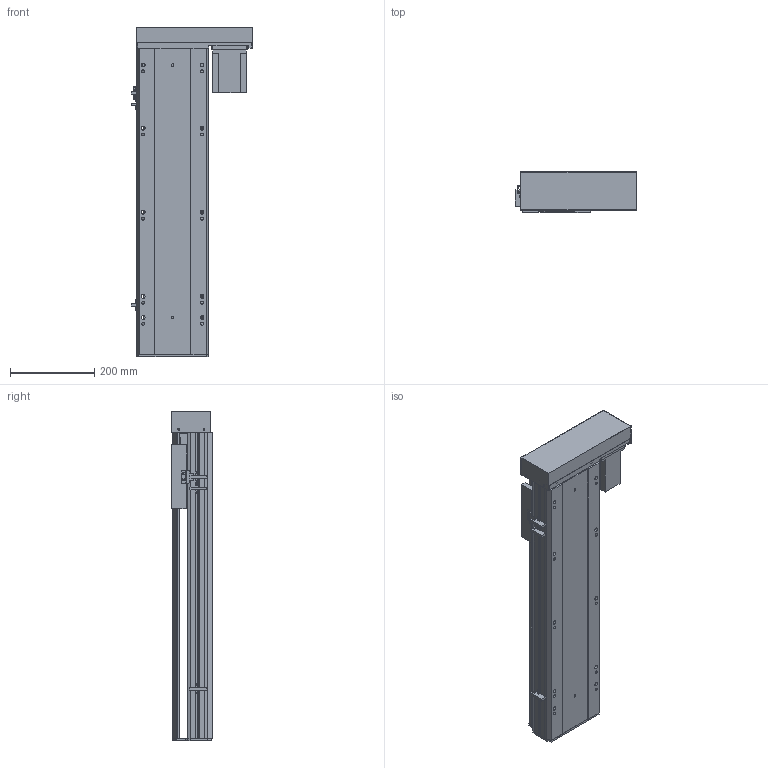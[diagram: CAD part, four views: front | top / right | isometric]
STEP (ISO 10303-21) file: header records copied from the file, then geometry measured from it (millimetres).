
FILE_DESCRIPTION (( 'STEP AP203' ), '1' );
FILE_NAME ('Y170-D10-S500-BR-P750W.STEP', '2020-01-21T12:19:15', ( '微软用户' ), ( '微软中国' ), 'SwSTEP 2.0', 'SolidWorks 2017', '' );
FILE_SCHEMA (( 'CONFIG_CONTROL_DESIGN' ));
Length unit declared in the file: millimetre
Products named in the file (12): EGH20賑輸_蕼偞; Y雄赽釱-耜蚾; Y170-陔遴奻裔-BR; Y-BL.BR-俋欶; Y--BL蟀諉啣-陔遴-; Y170耜裔--準---; YD-Y100-135-新外置传感挡片(通用）; 170--掛极-BR; Y100-135俋离換覜ん; Y170-BL-P750W楊擘啣; Y170-D10-S500-BR-P750W; 侂狟750W
Assembly tree (14 placements, depth 2):
  Y170-D10-S500-BR-P750W
    Y170耜裔--準---
    170--掛极-BR
    Y170-BL-P750W楊擘啣
    侂狟750W
    EGH20賑輸_蕼偞  x2
    Y雄赽釱-耜蚾
    Y170-陔遴奻裔-BR
    Y-BL.BR-俋欶
    Y--BL蟀諉啣-陔遴-
    YD-Y100-135-新外置传感挡片(通用）
    Y100-135俋离換覜ん  x3
Bounding box: 289 x 97 x 783.5 mm (x, y, z)
Volume: 4220893.3 mm3; surface area: 1410503 mm2
Topology: 14 solids, 14 shells, 909 faces, 2546 edges, 1680 vertices
Faces by surface type: cylinder 450, plane 443, cone 16
Entity records: 28570 total; most frequent: CARTESIAN_POINT 4998, DIRECTION 4748, ORIENTED_EDGE 4588, EDGE_CURVE 2294, AXIS2_PLACEMENT_3D 1682, VERTEX_POINT 1524, VECTOR 1384, LINE 1384
